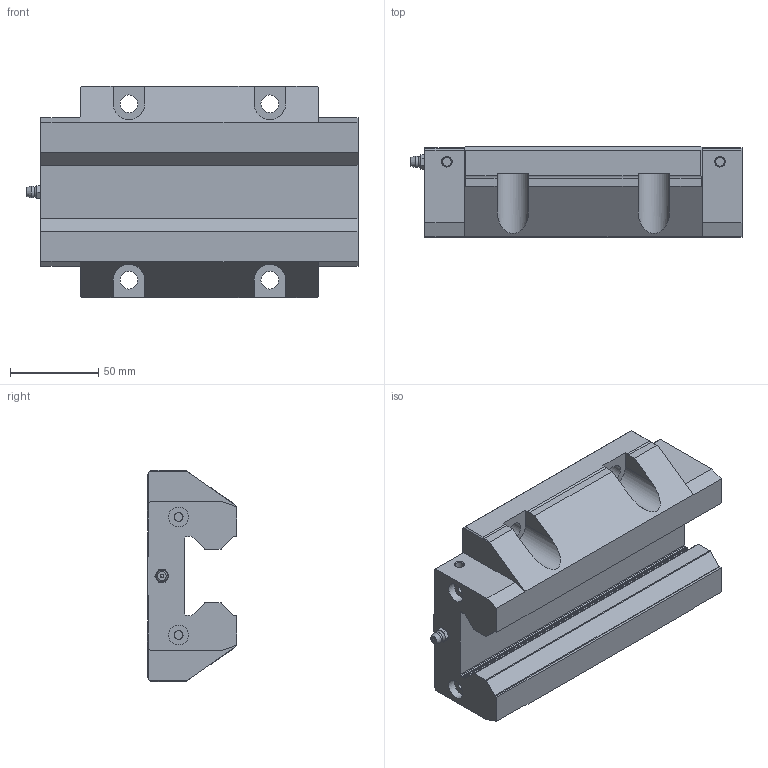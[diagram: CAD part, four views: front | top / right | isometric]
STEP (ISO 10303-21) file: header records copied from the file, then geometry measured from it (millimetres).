
FILE_DESCRIPTION(/* description */ ('STEP AP214'),/* implementation_level */ '2;1');
FILE_NAME(/* name */ 'ERG45P6LCC1N0______CAD_NO_(A-MT61)',/* time_stamp */ '2026-05-18T11:18:33+02:00',/* author */ ('License CC BY-ND 4.0'),/* organization */ ('CADENAS'),/* preprocessor_version */ 'ST-DEVELOPER v20',/* originating_system */ 'PARTsolutions',/* authorisation */ ' ');
FILE_SCHEMA (('AUTOMOTIVE_DESIGN {1 0 10303 214 3 1 1}'));
Length unit declared in the file: millimetre
Products named in the file (3): ERG45P6LCC1N0______CAD_NO_(A-MT61); ERG45LC01 Slider; hsr_ftht_A-M6F_grease_nipple_joint
Assembly tree (2 placements, depth 2):
  ERG45P6LCC1N0______CAD_NO_(A-MT61)
    ERG45LC01 Slider
    hsr_ftht_A-M6F_grease_nipple_joint
Bounding box: 188.41 x 51 x 120 mm (x, y, z)
Volume: 704186 mm3; surface area: 83300 mm2
Topology: 2 solids, 2 shells, 184 faces, 465 edges, 304 vertices
Faces by surface type: plane 109, cylinder 51, cone 21, sphere 2, torus 1
Full cylindrical faces by diameter (mm): 4.917 x6, 5 x4, 6 x1, 10.106 x6, 10.2 x2, 11.3 x4
Entity records: 5387 total; most frequent: CARTESIAN_POINT 981, DIRECTION 896, ORIENTED_EDGE 840, EDGE_CURVE 420, AXIS2_PLACEMENT_3D 313, VERTEX_POINT 300, LINE 270, VECTOR 270
